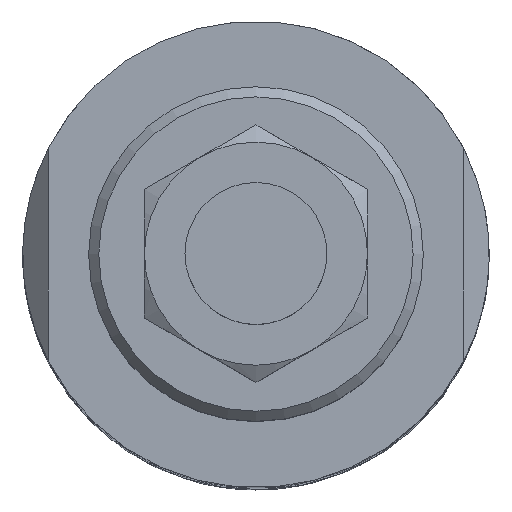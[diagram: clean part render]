
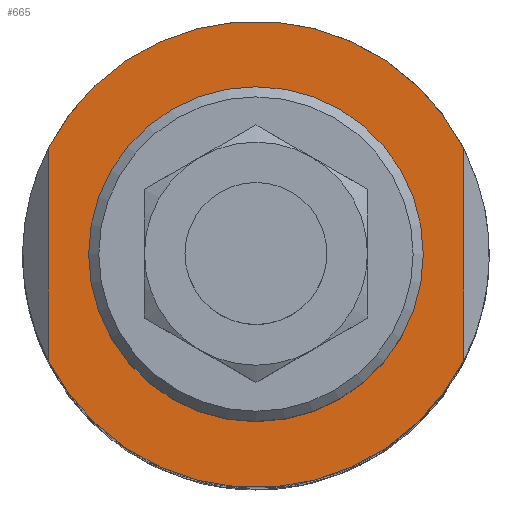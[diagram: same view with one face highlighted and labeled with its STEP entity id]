
A CAD part, top view. The second image highlights one B-rep face of the part: STEP entity #665.
In plain terms, the highlighted planar face has unit normal (0, 0, 1).
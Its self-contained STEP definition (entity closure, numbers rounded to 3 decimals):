
#549=CARTESIAN_POINT('',(-20.5,10.428,163.0));
#550=VERTEX_POINT('',#549);
#558=CARTESIAN_POINT('',(-20.5,-10.428,163.0));
#559=VERTEX_POINT('',#558);
#566=CARTESIAN_POINT('',(-20.5,10.428,163.0));
#567=DIRECTION('',(0.0,-1.0,0.0));
#568=VECTOR('',#567,20.857);
#569=LINE('',#566,#568);
#570=EDGE_CURVE('',#550,#559,#569,.T.);
#605=CARTESIAN_POINT('',(20.5,-10.428,163.));
#606=VERTEX_POINT('',#605);
#614=CARTESIAN_POINT('',(20.5,10.428,163.));
#615=VERTEX_POINT('',#614);
#622=CARTESIAN_POINT('',(20.5,-10.428,163.));
#623=DIRECTION('',(0.0,1.0,0.0));
#624=VECTOR('',#623,20.857);
#625=LINE('',#622,#624);
#626=EDGE_CURVE('',#606,#615,#625,.T.);
#631=CARTESIAN_POINT('',(0.0,0.0,163.0));
#632=DIRECTION('',(0.0,0.0,-1.0));
#633=DIRECTION('',(-1.0,0.0,0.0));
#634=AXIS2_PLACEMENT_3D('',#631,#632,#633);
#635=PLANE('',#634);
#636=ORIENTED_EDGE('',*,*,#570,.T.);
#637=CARTESIAN_POINT('',(0.0,0.0,163.0));
#638=DIRECTION('',(0.0,0.0,-1.0));
#639=DIRECTION('',(-1.0,0.0,0.0));
#640=AXIS2_PLACEMENT_3D('',#637,#638,#639);
#641=CIRCLE('',#640,23.);
#642=EDGE_CURVE('',#606,#559,#641,.T.);
#643=ORIENTED_EDGE('',*,*,#642,.F.);
#644=ORIENTED_EDGE('',*,*,#626,.T.);
#645=CARTESIAN_POINT('',(0.0,0.0,163.0));
#646=DIRECTION('',(0.0,0.0,-1.0));
#647=DIRECTION('',(-1.0,0.0,0.0));
#648=AXIS2_PLACEMENT_3D('',#645,#646,#647);
#649=CIRCLE('',#648,23.);
#650=EDGE_CURVE('',#550,#615,#649,.T.);
#651=ORIENTED_EDGE('',*,*,#650,.F.);
#652=EDGE_LOOP('',(#636,#643,#644,#651));
#653=FACE_OUTER_BOUND('',#652,.T.);
#654=CARTESIAN_POINT('',(16.5,0.,163.0));
#655=VERTEX_POINT('',#654);
#656=CARTESIAN_POINT('',(0.0,0.0,163.0));
#657=DIRECTION('',(0.0,0.0,-1.0));
#658=DIRECTION('',(-1.0,0.0,0.0));
#659=AXIS2_PLACEMENT_3D('',#656,#657,#658);
#660=CIRCLE('',#659,16.5);
#661=EDGE_CURVE('',#655,#655,#660,.T.);
#662=ORIENTED_EDGE('',*,*,#661,.T.);
#663=EDGE_LOOP('',(#662));
#664=FACE_BOUND('',#663,.T.);
#665=ADVANCED_FACE('',(#653,#664),#635,.F.);
